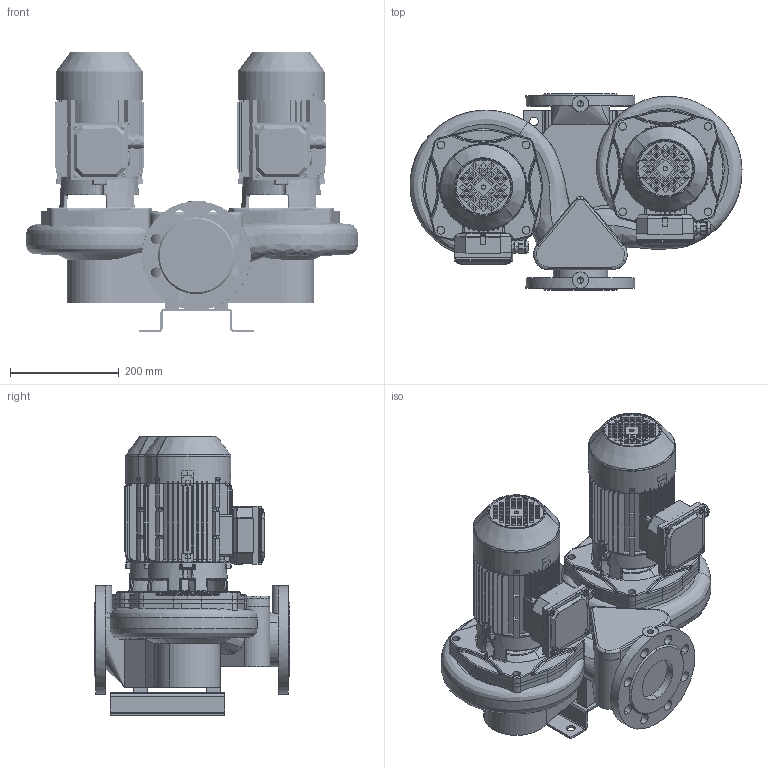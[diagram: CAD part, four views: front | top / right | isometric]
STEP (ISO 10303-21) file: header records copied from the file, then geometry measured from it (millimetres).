
FILE_DESCRIPTION(('STEP AP214'),'1');
FILE_NAME('export.stp','2018-05-30T07:56:05',(' '),(' '),'Spatial InterOp 3D',' ',' ');
FILE_SCHEMA(('AUTOMOTIVE_DESIGN { 1 0 10303 214 1 1 1 1 }'));
Length unit declared in the file: millimetre
Products named in the file (27): W_T80A4550_KP80; V_TLL65AB80A1102; V_PPT80A; V_JALKA35973; 160022; 160003; V_MKP80-2_F19; 160141; 160137; 160138; 160139; 160140; Koura_Ale_M5; Plug_Blind_M20; Sealing_Plug_M20; DIN_7985-M5X8; DIN_7985-M5X12; 480032; 480031___; 480034; 480033___; 160133
Assembly tree (46 placements, depth 4):
  W_T80A4550_KP80
    V_TLL65AB80A1102  x2
    V_PPT80A
    V_JALKA35973
    V_MKP80-2_F19
      160022
        160003
      160141
        160137
        160138
        160139
        160140
        Koura_Ale_M5
        Plug_Blind_M20
        Sealing_Plug_M20
        DIN_7985-M5X8
        DIN_7985-M5X12  x4
      480032
        480031___
      480034
        480033___
      160133
    V_MKP80-2_F19
      160022
        160003
      160141
        160137
        160138
        160139
        160140
        Koura_Ale_M5
        Plug_Blind_M20
        Sealing_Plug_M20
        DIN_7985-M5X8
        DIN_7985-M5X12  x4
      480032
        480031___
      480034
        480033___
      160133
Bounding box: 609.85 x 360 x 514.1 mm (x, y, z)
Volume: 20196070.9 mm3; surface area: 3828427.5 mm2
Topology: 36 solids, 37 shells, 5537 faces, 14471 edges, 8990 vertices
Faces by surface type: plane 2125, cylinder 1765, bspline 671, torus 566, cone 282, sphere 128
Entity records: 116163 total; most frequent: CARTESIAN_POINT 43044, ORIENTED_EDGE 14864, DIRECTION 13650, EDGE_CURVE 7432, AXIS2_PLACEMENT_3D 5182, VERTEX_POINT 4665, LINE 3286, VECTOR 3286
